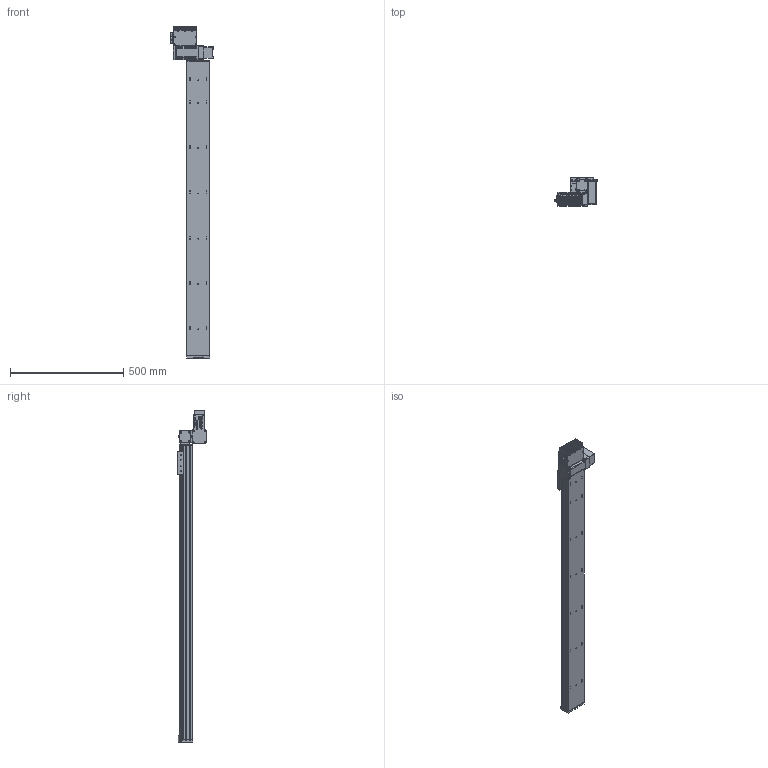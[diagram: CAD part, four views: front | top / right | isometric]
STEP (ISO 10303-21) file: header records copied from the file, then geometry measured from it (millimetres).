
FILE_DESCRIPTION (( 'STEP AP203' ), '1' );
FILE_NAME ('S10 TBH LH S1300.STEP', '2012-06-19T07:37:40', ( 'Conseil Régional Haute-Normandie' ), ( 'Conseil Régional Haute-Normandie' ), 'SwSTEP 2.0', 'SolidWorks 2010', '' );
FILE_SCHEMA (( 'CONFIG_CONTROL_DESIGN' ));
Length unit declared in the file: millimetre
Products named in the file (29): Plaque racord_Default; renvoi LH_Default; Assem1_7; Moteur 60BLDC90A_3; Couvercle_3; Radiateur profil_X2_00E9_X0_ 100x25_3; Colonnette ronde_3; T_X2_00F4_X0_le Arri_X2_00E8_X0_re_5; Cvis M5 L30_Default; palette tbn; axe1300; S10 TBH LH S1300; cache t皻e axe_Default; cache t皻e_Default; embout; plaque de bout s10_Default; T_X2_00F4_X0_le contre le moteur_5; BU41 Carte Alimentation P05_3; Colonnette_3; BU45 Carte d''axe A11_5; T_X2_00F4_X0_le fond_3; Connecteur rond D10 3cts_5; Connecteur rond D12 4cts_5; Sub D 9cts 90_X2_00B_X0__3; T_X2_00F4_X0_le lat_X2_00E9_X0_rale_5; Vis TF 3 torkx_1_1; vis M5 L12_Default; vis M5 L5_Default; axe 1300
Assembly tree (59 placements, depth 3):
  S10 TBH LH S1300
    palette tbn
    embout
    plaque de bout s10_Default
    Assem1_7
      Vis TF 3 torkx_1_1  x21
      T_X2_00F4_X0_le fond_3
      T_X2_00F4_X0_le Arri_X2_00E8_X0_re_5
      Colonnette_3  x2
      Moteur 60BLDC90A_3
      Couvercle_3
      Radiateur profil_X2_00E9_X0_ 100x25_3
      BU41 Carte Alimentation P05_3
      Connecteur rond D10 3cts_5  x2
      T_X2_00F4_X0_le lat_X2_00E9_X0_rale_5  x2
      T_X2_00F4_X0_le contre le moteur_5
      BU45 Carte d''axe A11_5
      Colonnette ronde_3
      Connecteur rond D12 4cts_5
      Sub D 9cts 90_X2_00B_X0__3
    Plaque racord_Default
    vis M5 L12_Default  x4
    Cvis M5 L30_Default  x2
    axe1300
      axe 1300
    vis M5 L5_Default  x4
    cache t皻e axe_Default
    renvoi LH_Default
    cache t皻e_Default  x2
Bounding box: 189.8 x 124.75 x 1466.5 mm (x, y, z)
Volume: 7621177.5 mm3; surface area: 945309.8 mm2
Topology: 57 solids, 57 shells, 2212 faces, 5524 edges, 3567 vertices
Faces by surface type: plane 1035, cylinder 968, cone 174, bspline 32, torus 3
Entity records: 47183 total; most frequent: CARTESIAN_POINT 8507, DIRECTION 7621, ORIENTED_EDGE 6928, EDGE_CURVE 3464, AXIS2_PLACEMENT_3D 2830, VERTEX_POINT 2261, VECTOR 1961, LINE 1961
